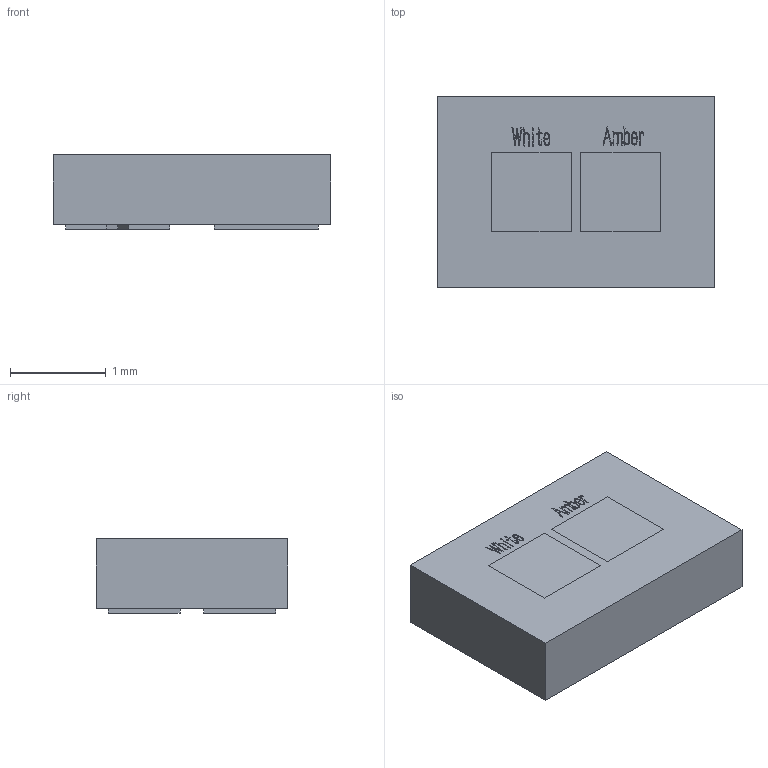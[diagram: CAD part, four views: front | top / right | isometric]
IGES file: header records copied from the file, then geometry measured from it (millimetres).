
Start section: SolidWorks IGES file using analytic representation for surfaces
Global section: file name: C:\Users\user\Desktop\SW22\ヶ蚾陬腑3D恅璃\ACL2.IGS; native system: SolidWorks 2022; preprocessor: SolidWorks 2022; author: user; date: 240125.024927; units: millimetre
Bounding box: 2.9 x 2 x 0.78 mm (x, y, z)
Surface area: 19.5 mm2 (no closed solid volume)
Topology: 0 solids, 0 shells, 267 faces, 1820 edges, 1820 vertices
Faces by surface type: bspline 267
